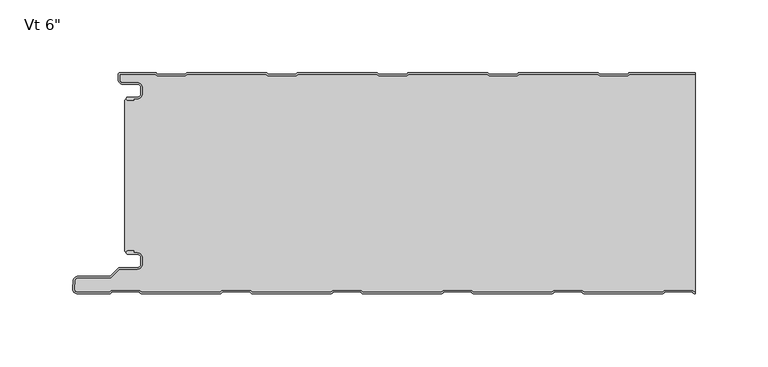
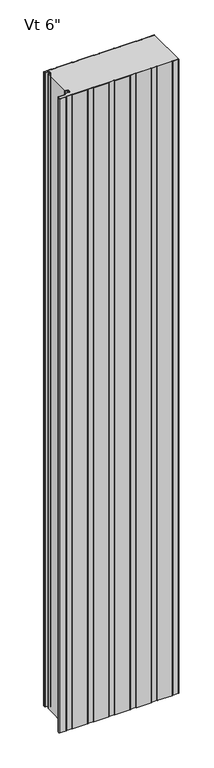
"""IFC4 building model written with IfcOpenShell, lengths in millimetres: plate geometry."""

from ifc_helpers import new_model, si_unit, point, frame, frame_2d, origin, origin_with_axes, place, context, project, spatial, polyline, circle_curve, trimmed, segment, composite_curve, outline, extrude, source, transform, mapped, element, save
from ifc_brep_helpers import plane_surface, cylinder_surface, revolved_surface, advanced_brep


def plate_28d0dd15(model_context):
    return source(origin(), model_context, "Body", "SolidModel", [
        advanced_brep(
        [(-194.5686912, -17.0015405, 2400.0), (-195.5686885, -18.0015437, 2400.0), (-194.5686912, -19.0015351, 2400.0), (-190.5684875, -19.0015351, 2400.0), (-190.5684876, -18.0015405, 2400.0), (-187.8762777, -18.0015405, 2400.0), (-184.5762821, -14.7015448, 2400.0), (-184.5762821, -10.3015536, 2400.0), (-187.8762776, -7.0015581, 2400.0), (-198.2962565, -7.0015581, 2400.0), (-200.0662507, -5.2315639, 2400.0), (-200.0662507, -1.0000163, 2400.0), (-175.5659741, -1.0000162, 2400.0), (-174.1803314, -2.2002553, 2400.0), (-154.8051651, -2.2002553, 2400.0), (-153.4195322, -1.0000245, 2400.0), (-99.3661168, -1.0000245, 2400.0), (-97.9804838, -2.2002552, 2400.0), (-78.6053175, -2.2002551, 2400.0), (-77.2196846, -1.0000244, 2400.0), (-23.1662692, -1.0000243, 2400.0), (-21.7806362, -2.200255, 2400.0), (-2.4054699, -2.200255, 2400.0), (-1.019837, -1.0000243, 2400.0), (53.0335784, -1.0000242, 2400.0), (54.4192114, -2.2002549, 2400.0), (73.7943777, -2.2002548, 2400.0), (75.1800106, -1.0000241, 2400.0), (129.233426, -1.000024, 2400.0), (130.619059, -2.2002547, 2400.0), (149.9942253, -2.2002547, 2400.0), (151.3798582, -1.000024, 2400.0), (196.5999996, -1.0000239, 2400.0), (196.5999996, -2.39e-05, 2400.0), (151.5290094, -2.4e-05, 2400.0), (150.6123925, -0.3418125, 2400.0), (149.6213448, -1.2002547, 2400.0), (130.9919394, -1.2002547, 2400.0), (130.0008917, -0.3418125, 2400.0), (129.0842749, -2.4e-05, 2400.0), (75.3291618, -2.41e-05, 2400.0), (74.4125449, -0.3418126, 2400.0), (73.4214972, -1.2002548, 2400.0), (54.7920918, -1.2002549, 2400.0), (53.8010441, -0.3418127, 2400.0), (52.8844273, -2.42e-05, 2400.0), (-0.8706858, -2.43e-05, 2400.0), (-1.7873027, -0.3418128, 2400.0), (-2.7783504, -1.200255, 2400.0), (-21.4077558, -1.200255, 2400.0), (-22.3988035, -0.3418128, 2400.0), (-23.3154203, -2.43e-05, 2400.0), (-77.0705334, -2.44e-05, 2400.0), (-77.9871503, -0.3418129, 2400.0), (-78.978198, -1.2002551, 2400.0), (-97.6076034, -1.2002552, 2400.0), (-98.5986511, -0.341813, 2400.0), (-99.5152679, -2.44e-05, 2400.0), (-153.270381, -2.45e-05, 2400.0), (-154.1869979, -0.3418131, 2400.0), (-155.1780456, -1.2002553, 2400.0), (-173.807451, -1.2002553, 2400.0), (-174.7984987, -0.3418131, 2400.0), (-175.7152069, -2.46e-05, 2400.0), (-199.6662545, -1.63e-05, 2400.0), (-201.0662507, -1.4000124, 2400.0), (-201.0662507, -5.2315639, 2400.0), (-198.2962565, -8.0015581, 2400.0), (-187.8762776, -8.0015581, 2400.0), (-185.5762821, -10.3015536, 2400.0), (-185.5762821, -14.7015448, 2400.0), (-187.8762777, -17.0015405, 2400.0), (-194.5686912, -17.0015405, 0.0), (-187.8762777, -17.0015405, 0.0), (-185.5762821, -14.7015448, 0.0), (-185.5762821, -10.3015536, 0.0), (-187.8762776, -8.0015581, 0.0), (-198.2962565, -8.0015581, 0.0), (-201.0662507, -5.2315639, 0.0), (-201.0662507, -1.4000124, 0.0), (-199.6662545, -1.63e-05, 0.0), (-175.7151155, -1.62e-05, 0.0), (-174.7984987, -0.3418131, 0.0), (-173.807451, -1.2002553, 0.0), (-155.1780456, -1.2002553, 0.0), (-154.1869979, -0.3418131, 0.0), (-153.270381, -2.45e-05, 0.0), (-99.5152679, -2.45e-05, 0.0), (-98.5986511, -0.341813, 0.0), (-97.6076034, -1.2002552, 0.0), (-78.978198, -1.2002551, 0.0), (-77.9871503, -0.3418129, 0.0), (-77.0705334, -2.44e-05, 0.0), (-23.3154203, -2.43e-05, 0.0), (-22.3988035, -0.3418128, 0.0), (-21.4077558, -1.200255, 0.0), (-2.7783504, -1.200255, 0.0), (-1.7873027, -0.3418128, 0.0), (-0.8706858, -2.43e-05, 0.0), (52.8844273, -2.42e-05, 0.0), (53.8010441, -0.3418127, 0.0), (54.7920918, -1.2002549, 0.0), (73.4214972, -1.2002548, 0.0), (74.4125449, -0.3418126, 0.0), (75.3291618, -2.41e-05, 0.0), (129.0842749, -2.4e-05, 0.0), (130.0008917, -0.3418125, 0.0), (130.9919394, -1.2002547, 0.0), (149.6213448, -1.2002547, 0.0), (150.6123925, -0.3418125, 0.0), (151.5290094, -2.4e-05, 0.0), (196.5999996, -2.39e-05, 0.0), (196.5999996, -1.0000239, 0.0), (151.3798582, -1.000024, 0.0), (149.9942253, -2.2002547, 0.0), (130.619059, -2.2002547, 0.0), (129.233426, -1.000024, 0.0), (75.1800106, -1.0000241, 0.0), (73.7943777, -2.2002548, 0.0), (54.4192114, -2.2002549, 0.0), (53.0335784, -1.0000242, 0.0), (-1.019837, -1.0000243, 0.0), (-2.4054699, -2.200255, 0.0), (-21.7806362, -2.200255, 0.0), (-23.1662692, -1.0000243, 0.0), (-77.2196846, -1.0000244, 0.0), (-78.6053175, -2.2002551, 0.0), (-97.9804838, -2.2002552, 0.0), (-99.3661168, -1.0000245, 0.0), (-153.4195322, -1.0000245, 0.0), (-154.8051651, -2.2002553, 0.0), (-174.1803314, -2.2002553, 0.0), (-175.5659741, -1.0000162, 0.0), (-200.0662507, -1.0000163, 0.0), (-200.0662507, -5.2315639, 0.0), (-198.2962565, -7.0015581, 0.0), (-187.8762776, -7.0015581, 0.0), (-184.5762821, -10.3015536, 0.0), (-184.5762821, -14.7015448, 0.0), (-187.8762777, -18.0015405, 0.0), (-190.5684876, -18.0015405, 0.0), (-190.5684875, -19.0015351, 0.0), (-194.5686912, -19.0015351, 0.0), (-195.5686884, -18.0015438, 0.0)],
        [
            (0, 1, circle_curve(frame((-194.5686912, -18.0015378, 2400.0), z_axis=(0.0, 0.0, 1.0), x_axis=(1.0, 1.7886562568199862e-09, 0.0)), 0.9999973)),
            (1, 2, circle_curve(frame((-194.5686912, -18.0015379, 2400.0), z_axis=(0.0, 0.0, 1.0), x_axis=(1.0, 1.7886562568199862e-09, 0.0)), 0.9999972)),
            (2, 3),
            (3, 4),
            (4, 5),
            (5, 6, circle_curve(frame((-187.8762778, -14.7015448, 2400.0), z_axis=(0.0, 0.0, 1.0), x_axis=(1.0, 1.7886562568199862e-09, 0.0)), 3.2999957)),
            (6, 7),
            (7, 8, circle_curve(frame((-187.8762776, -10.3015536, 2400.0), z_axis=(0.0, 0.0, 1.0), x_axis=(1.0, 1.7886562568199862e-09, 0.0)), 3.2999955)),
            (8, 9),
            (9, 10, circle_curve(frame((-198.2962565, -5.2315639, 2400.0), z_axis=(0.0, 0.0, -1.0), x_axis=(1.0, 1.7886562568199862e-09, 0.0)), 1.7699942)),
            (10, 11),
            (11, 12),
            (12, 13),
            (13, 14),
            (14, 15),
            (15, 16),
            (16, 17),
            (17, 18),
            (18, 19),
            (19, 20),
            (20, 21),
            (21, 22),
            (22, 23),
            (23, 24),
            (24, 25),
            (25, 26),
            (26, 27),
            (27, 28),
            (28, 29),
            (29, 30),
            (30, 31),
            (31, 32),
            (32, 33),
            (33, 34),
            (34, 35, circle_curve(frame((151.5290094, -1.4000212, 2400.0), z_axis=(0.0, 0.0, 1.0), x_axis=(1.0, 1.7886562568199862e-09, 0.0)), 1.3999972)),
            (35, 36),
            (36, 37),
            (37, 38),
            (38, 39, circle_curve(frame((129.0842749, -1.4000212, 2400.0), z_axis=(0.0, 0.0, 1.0), x_axis=(1.0, 1.7886562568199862e-09, 0.0)), 1.3999972)),
            (39, 40),
            (40, 41, circle_curve(frame((75.3291618, -1.4000213, 2400.0), z_axis=(0.0, 0.0, 1.0), x_axis=(1.0, 1.7886562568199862e-09, 0.0)), 1.3999972)),
            (41, 42),
            (42, 43),
            (43, 44),
            (44, 45, circle_curve(frame((52.8844273, -1.4000214, 2400.0), z_axis=(0.0, 0.0, 1.0), x_axis=(1.0, 1.7886562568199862e-09, 0.0)), 1.3999972)),
            (45, 46),
            (46, 47, circle_curve(frame((-0.8706858, -1.4000215, 2400.0), z_axis=(0.0, 0.0, 1.0), x_axis=(1.0, 1.7886562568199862e-09, 0.0)), 1.3999972)),
            (47, 48),
            (48, 49),
            (49, 50),
            (50, 51, circle_curve(frame((-23.3154203, -1.4000215, 2400.0), z_axis=(0.0, 0.0, 1.0), x_axis=(1.0, 1.7886562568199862e-09, 0.0)), 1.3999972)),
            (51, 52),
            (52, 53, circle_curve(frame((-77.0705334, -1.4000216, 2400.0), z_axis=(0.0, 0.0, 1.0), x_axis=(1.0, 1.7886562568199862e-09, 0.0)), 1.3999972)),
            (53, 54),
            (54, 55),
            (55, 56),
            (56, 57, circle_curve(frame((-99.5152679, -1.4000216, 2400.0), z_axis=(0.0, 0.0, 1.0), x_axis=(1.0, 1.7886562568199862e-09, 0.0)), 1.3999972)),
            (57, 58),
            (58, 59, circle_curve(frame((-153.270381, -1.4000217, 2400.0), z_axis=(0.0, 0.0, 1.0), x_axis=(1.0, 1.7886562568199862e-09, 0.0)), 1.3999972)),
            (59, 60),
            (60, 61),
            (61, 62),
            (62, 63, circle_curve(frame((-175.7151155, -1.4000218, 2400.0), z_axis=(0.0, 0.0, 1.0), x_axis=(1.0, 1.7886562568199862e-09, 0.0)), 1.3999972)),
            (63, 64),
            (64, 65, circle_curve(frame((-199.6662545, -1.4000124, 2400.0), z_axis=(0.0, 0.0, 1.0), x_axis=(1.0, 1.7886562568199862e-09, 0.0)), 1.3999962)),
            (65, 66),
            (66, 67, circle_curve(frame((-198.2962565, -5.2315639, 2400.0), z_axis=(0.0, 0.0, 1.0), x_axis=(1.0, 1.7886562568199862e-09, 0.0)), 2.7699942)),
            (67, 68),
            (68, 69, circle_curve(frame((-187.8762776, -10.3015536, 2400.0), z_axis=(0.0, 0.0, -1.0), x_axis=(1.0, 1.7886562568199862e-09, 0.0)), 2.2999955)),
            (69, 70),
            (70, 71, circle_curve(frame((-187.8762778, -14.7015448, 2400.0), z_axis=(0.0, 0.0, -1.0), x_axis=(1.0, 1.7886562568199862e-09, 0.0)), 2.2999957)),
            (71, 0),
            (72, 73),
            (73, 74, circle_curve(frame((-187.8762778, -14.7015448, 0.0), z_axis=(0.0, 0.0, 1.0), x_axis=(1.0, 1.7886562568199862e-09, 0.0)), 2.2999957)),
            (74, 75),
            (75, 76, circle_curve(frame((-187.8762776, -10.3015536, 0.0), z_axis=(0.0, 0.0, 1.0), x_axis=(1.0, 1.7886562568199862e-09, 0.0)), 2.2999955)),
            (76, 77),
            (77, 78, circle_curve(frame((-198.2962565, -5.2315639, 0.0), z_axis=(0.0, 0.0, -1.0), x_axis=(1.0, 1.7886562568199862e-09, 0.0)), 2.7699942)),
            (78, 79),
            (79, 80, circle_curve(frame((-199.6662545, -1.4000124, 0.0), z_axis=(0.0, 0.0, -1.0), x_axis=(1.0, 1.7886562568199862e-09, 0.0)), 1.3999962)),
            (80, 81),
            (81, 82, circle_curve(frame((-175.7151155, -1.4000218, 0.0), z_axis=(0.0, 0.0, -1.0), x_axis=(1.0, 1.7886562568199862e-09, 0.0)), 1.3999972)),
            (82, 83),
            (83, 84),
            (84, 85),
            (85, 86, circle_curve(frame((-153.270381, -1.4000217, 0.0), z_axis=(0.0, 0.0, -1.0), x_axis=(1.0, 1.7886562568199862e-09, 0.0)), 1.3999972)),
            (86, 87),
            (87, 88, circle_curve(frame((-99.5152679, -1.4000216, 0.0), z_axis=(0.0, 0.0, -1.0), x_axis=(1.0, 1.7886562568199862e-09, 0.0)), 1.3999972)),
            (88, 89),
            (89, 90),
            (90, 91),
            (91, 92, circle_curve(frame((-77.0705334, -1.4000216, 0.0), z_axis=(0.0, 0.0, -1.0), x_axis=(1.0, 1.7886562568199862e-09, 0.0)), 1.3999972)),
            (92, 93),
            (93, 94, circle_curve(frame((-23.3154203, -1.4000215, 0.0), z_axis=(0.0, 0.0, -1.0), x_axis=(1.0, 1.7886562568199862e-09, 0.0)), 1.3999972)),
            (94, 95),
            (95, 96),
            (96, 97),
            (97, 98, circle_curve(frame((-0.8706858, -1.4000215, 0.0), z_axis=(0.0, 0.0, -1.0), x_axis=(1.0, 1.7886562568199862e-09, 0.0)), 1.3999972)),
            (98, 99),
            (99, 100, circle_curve(frame((52.8844273, -1.4000214, 0.0), z_axis=(0.0, 0.0, -1.0), x_axis=(1.0, 1.7886562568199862e-09, 0.0)), 1.3999972)),
            (100, 101),
            (101, 102),
            (102, 103),
            (103, 104, circle_curve(frame((75.3291618, -1.4000213, 0.0), z_axis=(0.0, 0.0, -1.0), x_axis=(1.0, 1.7886562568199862e-09, 0.0)), 1.3999972)),
            (104, 105),
            (105, 106, circle_curve(frame((129.0842749, -1.4000212, 0.0), z_axis=(0.0, 0.0, -1.0), x_axis=(1.0, 1.7886562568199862e-09, 0.0)), 1.3999972)),
            (106, 107),
            (107, 108),
            (108, 109),
            (109, 110, circle_curve(frame((151.5290094, -1.4000212, 0.0), z_axis=(0.0, 0.0, -1.0), x_axis=(1.0, 1.7886562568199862e-09, 0.0)), 1.3999972)),
            (110, 111),
            (111, 112),
            (112, 113),
            (113, 114),
            (114, 115),
            (115, 116),
            (116, 117),
            (117, 118),
            (118, 119),
            (119, 120),
            (120, 121),
            (121, 122),
            (122, 123),
            (123, 124),
            (124, 125),
            (125, 126),
            (126, 127),
            (127, 128),
            (128, 129),
            (129, 130),
            (130, 131),
            (131, 132),
            (132, 133),
            (133, 134),
            (134, 135, circle_curve(frame((-198.2962565, -5.2315639, 0.0), z_axis=(0.0, 0.0, 1.0), x_axis=(1.0, 1.7886562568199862e-09, 0.0)), 1.7699942)),
            (135, 136),
            (136, 137, circle_curve(frame((-187.8762776, -10.3015536, 0.0), z_axis=(0.0, 0.0, -1.0), x_axis=(1.0, 1.7886562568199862e-09, 0.0)), 3.2999955)),
            (137, 138),
            (138, 139, circle_curve(frame((-187.8762778, -14.7015448, 0.0), z_axis=(0.0, 0.0, -1.0), x_axis=(1.0, 1.7886562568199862e-09, 0.0)), 3.2999957)),
            (139, 140),
            (140, 141),
            (141, 142),
            (142, 143, circle_curve(frame((-194.5686912, -18.0015379, 0.0), z_axis=(0.0, 0.0, -1.0), x_axis=(1.0, 1.7886562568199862e-09, 0.0)), 0.9999972)),
            (143, 72, circle_curve(frame((-194.5686912, -18.0015378, 0.0), z_axis=(0.0, 0.0, -1.0), x_axis=(1.0, 1.7886562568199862e-09, 0.0)), 0.9999973)),
            (32, 112),
            (111, 33),
            (71, 73),
            (72, 0),
            (70, 74),
            (69, 75),
            (68, 76),
            (67, 77),
            (66, 78),
            (65, 79),
            (64, 80),
            (63, 81),
            (62, 82),
            (61, 83),
            (60, 84),
            (59, 85),
            (58, 86),
            (57, 87),
            (56, 88),
            (55, 89),
            (54, 90),
            (53, 91),
            (52, 92),
            (51, 93),
            (50, 94),
            (49, 95),
            (48, 96),
            (47, 97),
            (46, 98),
            (45, 99),
            (44, 100),
            (43, 101),
            (42, 102),
            (41, 103),
            (40, 104),
            (39, 105),
            (38, 106),
            (37, 107),
            (36, 108),
            (35, 109),
            (34, 110),
            (31, 113),
            (30, 114),
            (29, 115),
            (28, 116),
            (27, 117),
            (26, 118),
            (25, 119),
            (24, 120),
            (23, 121),
            (22, 122),
            (21, 123),
            (20, 124),
            (19, 125),
            (18, 126),
            (17, 127),
            (16, 128),
            (15, 129),
            (14, 130),
            (13, 131),
            (12, 132),
            (11, 133),
            (10, 134),
            (9, 135),
            (8, 136),
            (7, 137),
            (6, 138),
            (5, 139),
            (4, 140),
            (3, 141),
            (2, 142),
            (1, 143),
        ],
        [
            plane_surface(frame((336.7999999, -2.37e-05, 2400.0), z_axis=(0.0, 0.0, 1.0), x_axis=(-1.7886562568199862e-09, 1.0, 0.0))),
            plane_surface(frame((336.7999999, -2.37e-05, 0.0), z_axis=(0.0, 0.0, -1.0), x_axis=(-1.7886562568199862e-09, 1.0, 0.0))),
            plane_surface(frame((196.5999999, -162.4000239, 2400.0), z_axis=(1.0, 1.7886562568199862e-09, 0.0), x_axis=(0.0, 0.0, -1.0))),
            plane_surface(frame((-194.5686912, -17.0015405, 2400.0), z_axis=(-1.7886562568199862e-09, 1.0, 0.0), x_axis=(0.0, 0.0, -1.0))),
            revolved_surface(polyline([(-185.5762821, -14.701544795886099, 0.0), (-185.5762821, -14.701544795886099, 2400.0)]), (-187.8762778, -14.7015448, 2400.0), (0.0, 0.0, -1.0)),
            plane_surface(frame((-185.5762821, -14.7015448, 2400.0), z_axis=(-1.0, -1.7886562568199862e-09, 0.0), x_axis=(0.0, 0.0, -1.0))),
            revolved_surface(polyline([(-185.57628210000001, -10.301553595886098, 0.0), (-185.57628210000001, -10.301553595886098, 2400.0)]), (-187.8762776, -10.3015536, 2400.0), (0.0, 0.0, -1.0)),
            plane_surface(frame((-187.8762776, -8.0015581, 2400.0), z_axis=(1.7886562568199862e-09, -1.0, 0.0), x_axis=(0.0, 0.0, -1.0))),
            cylinder_surface(frame((-198.2962565, -5.2315639, 2400.0), z_axis=(0.0, 0.0, 1.0), x_axis=(1.0, 1.7886562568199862e-09, 0.0)), 2.7699942),
            plane_surface(frame((-201.0662507, -5.2315639, 2400.0), z_axis=(-1.0, -1.7886562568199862e-09, 0.0), x_axis=(0.0, 0.0, -1.0))),
            cylinder_surface(frame((-199.6662545, -1.4000124, 2400.0), z_axis=(0.0, 0.0, 1.0), x_axis=(1.0, 1.7886562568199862e-09, 0.0)), 1.3999962),
            plane_surface(frame((-199.6662545, -1.63e-05, 2400.0), z_axis=(-1.7886562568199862e-09, 1.0, 0.0), x_axis=(0.0, 0.0, -1.0))),
            cylinder_surface(frame((-175.7151155, -1.4000218, 2400.0), z_axis=(0.0, 0.0, 1.0), x_axis=(1.0, 1.7886562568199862e-09, 0.0)), 1.3999972),
            plane_surface(frame((-174.7984987, -0.3418131, 2400.0), z_axis=(0.6547276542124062, 0.7558648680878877, 0.0), x_axis=(0.0, 0.0, -1.0))),
            plane_surface(frame((-164.4927483, -1.2002553, 2400.0), z_axis=(-1.7886562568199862e-09, 1.0, 0.0), x_axis=(0.0, 0.0, -1.0))),
            plane_surface(frame((-155.1780456, -1.2002553, 2400.0), z_axis=(-0.654727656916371, 0.7558648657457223, 0.0), x_axis=(0.0, 0.0, -1.0))),
            cylinder_surface(frame((-153.270381, -1.4000217, 2400.0), z_axis=(0.0, 0.0, 1.0), x_axis=(1.0, 1.7886562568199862e-09, 0.0)), 1.3999972),
            plane_surface(frame((-153.270381, -2.45e-05, 2400.0), z_axis=(-1.7886512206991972e-09, 1.0, 0.0), x_axis=(0.0, 0.0, -1.0))),
            cylinder_surface(frame((-99.5152679, -1.4000216, 2400.0), z_axis=(0.0, 0.0, 1.0), x_axis=(1.0, 1.7886562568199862e-09, 0.0)), 1.3999972),
            plane_surface(frame((-98.5986511, -0.341813, 2400.0), z_axis=(0.6547276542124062, 0.7558648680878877, 0.0), x_axis=(0.0, 0.0, -1.0))),
            plane_surface(frame((-88.2929007, -1.2002551, 2400.0), z_axis=(-1.7886562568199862e-09, 1.0, 0.0), x_axis=(0.0, 0.0, -1.0))),
            plane_surface(frame((-78.978198, -1.2002551, 2400.0), z_axis=(-0.654727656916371, 0.7558648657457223, 0.0), x_axis=(0.0, 0.0, -1.0))),
            cylinder_surface(frame((-77.0705334, -1.4000216, 2400.0), z_axis=(0.0, 0.0, 1.0), x_axis=(1.0, 1.7886562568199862e-09, 0.0)), 1.3999972),
            plane_surface(frame((-77.0705334, -2.44e-05, 2400.0), z_axis=(-1.7886512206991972e-09, 1.0, 0.0), x_axis=(0.0, 0.0, -1.0))),
            cylinder_surface(frame((-23.3154203, -1.4000215, 2400.0), z_axis=(0.0, 0.0, 1.0), x_axis=(1.0, 1.7886562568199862e-09, 0.0)), 1.3999972),
            plane_surface(frame((-22.3988035, -0.3418128, 2400.0), z_axis=(0.6547276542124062, 0.7558648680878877, 0.0), x_axis=(0.0, 0.0, -1.0))),
            plane_surface(frame((-12.0930531, -1.200255, 2400.0), z_axis=(-1.7886562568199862e-09, 1.0, 0.0), x_axis=(0.0, 0.0, -1.0))),
            plane_surface(frame((-2.7783504, -1.200255, 2400.0), z_axis=(-0.654727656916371, 0.7558648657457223, 0.0), x_axis=(0.0, 0.0, -1.0))),
            cylinder_surface(frame((-0.8706858, -1.4000215, 2400.0), z_axis=(0.0, 0.0, 1.0), x_axis=(1.0, 1.7886562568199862e-09, 0.0)), 1.3999972),
            plane_surface(frame((-0.8706858, -2.43e-05, 2400.0), z_axis=(-1.7886512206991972e-09, 1.0, 0.0), x_axis=(0.0, 0.0, -1.0))),
            cylinder_surface(frame((52.8844273, -1.4000214, 2400.0), z_axis=(0.0, 0.0, 1.0), x_axis=(1.0, 1.7886562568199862e-09, 0.0)), 1.3999972),
            plane_surface(frame((53.8010441, -0.3418127, 2400.0), z_axis=(0.6547276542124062, 0.7558648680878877, 0.0), x_axis=(0.0, 0.0, -1.0))),
            plane_surface(frame((64.1067945, -1.2002549, 2400.0), z_axis=(-1.7886562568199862e-09, 1.0, 0.0), x_axis=(0.0, 0.0, -1.0))),
            plane_surface(frame((73.4214972, -1.2002548, 2400.0), z_axis=(-0.654727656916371, 0.7558648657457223, 0.0), x_axis=(0.0, 0.0, -1.0))),
            cylinder_surface(frame((75.3291618, -1.4000213, 2400.0), z_axis=(0.0, 0.0, 1.0), x_axis=(1.0, 1.7886562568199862e-09, 0.0)), 1.3999972),
            plane_surface(frame((75.3291618, -2.41e-05, 2400.0), z_axis=(-1.7886512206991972e-09, 1.0, 0.0), x_axis=(0.0, 0.0, -1.0))),
            cylinder_surface(frame((129.0842749, -1.4000212, 2400.0), z_axis=(0.0, 0.0, 1.0), x_axis=(1.0, 1.7886562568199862e-09, 0.0)), 1.3999972),
            plane_surface(frame((130.0008917, -0.3418125, 2400.0), z_axis=(0.6547276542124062, 0.7558648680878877, 0.0), x_axis=(0.0, 0.0, -1.0))),
            plane_surface(frame((140.3066421, -1.2002547, 2400.0), z_axis=(-1.7886562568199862e-09, 1.0, 0.0), x_axis=(0.0, 0.0, -1.0))),
            plane_surface(frame((149.6213448, -1.2002547, 2400.0), z_axis=(-0.654727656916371, 0.7558648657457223, 0.0), x_axis=(0.0, 0.0, -1.0))),
            cylinder_surface(frame((151.5290094, -1.4000212, 2400.0), z_axis=(0.0, 0.0, 1.0), x_axis=(1.0, 1.7886562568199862e-09, 0.0)), 1.3999972),
            plane_surface(frame((151.5290094, -2.4e-05, 2400.0), z_axis=(-1.7886512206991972e-09, 1.0, 0.0), x_axis=(0.0, 0.0, -1.0))),
            plane_surface(frame((205.4332736, -1.0000239, 2400.0), z_axis=(1.7886512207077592e-09, -1.0, 0.0), x_axis=(0.0, 0.0, -1.0))),
            plane_surface(frame((151.3798582, -1.000024, 2400.0), z_axis=(0.654727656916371, -0.7558648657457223, 0.0), x_axis=(0.0, 0.0, -1.0))),
            plane_surface(frame((149.9942253, -2.2002547, 2400.0), z_axis=(1.7886562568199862e-09, -1.0, 0.0), x_axis=(0.0, 0.0, -1.0))),
            plane_surface(frame((130.619059, -2.2002547, 2400.0), z_axis=(-0.6547276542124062, -0.7558648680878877, 0.0), x_axis=(0.0, 0.0, -1.0))),
            plane_surface(frame((129.233426, -1.000024, 2400.0), z_axis=(1.7886512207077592e-09, -1.0, 0.0), x_axis=(0.0, 0.0, -1.0))),
            plane_surface(frame((75.1800106, -1.0000241, 2400.0), z_axis=(0.654727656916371, -0.7558648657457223, 0.0), x_axis=(0.0, 0.0, -1.0))),
            plane_surface(frame((73.7943777, -2.2002548, 2400.0), z_axis=(1.7886562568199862e-09, -1.0, 0.0), x_axis=(0.0, 0.0, -1.0))),
            plane_surface(frame((54.4192114, -2.2002549, 2400.0), z_axis=(-0.6547276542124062, -0.7558648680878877, 0.0), x_axis=(0.0, 0.0, -1.0))),
            plane_surface(frame((53.0335784, -1.0000242, 2400.0), z_axis=(1.7886512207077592e-09, -1.0, 0.0), x_axis=(0.0, 0.0, -1.0))),
            plane_surface(frame((-1.019837, -1.0000243, 2400.0), z_axis=(0.654727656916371, -0.7558648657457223, 0.0), x_axis=(0.0, 0.0, -1.0))),
            plane_surface(frame((-2.4054699, -2.200255, 2400.0), z_axis=(1.7886562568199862e-09, -1.0, 0.0), x_axis=(0.0, 0.0, -1.0))),
            plane_surface(frame((-21.7806362, -2.200255, 2400.0), z_axis=(-0.6547276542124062, -0.7558648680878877, 0.0), x_axis=(0.0, 0.0, -1.0))),
            plane_surface(frame((-23.1662692, -1.0000243, 2400.0), z_axis=(1.7886512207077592e-09, -1.0, 0.0), x_axis=(0.0, 0.0, -1.0))),
            plane_surface(frame((-77.2196846, -1.0000244, 2400.0), z_axis=(0.654727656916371, -0.7558648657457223, 0.0), x_axis=(0.0, 0.0, -1.0))),
            plane_surface(frame((-78.6053175, -2.2002551, 2400.0), z_axis=(1.7886562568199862e-09, -1.0, 0.0), x_axis=(0.0, 0.0, -1.0))),
            plane_surface(frame((-97.9804838, -2.2002552, 2400.0), z_axis=(-0.6547276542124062, -0.7558648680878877, 0.0), x_axis=(0.0, 0.0, -1.0))),
            plane_surface(frame((-99.3661168, -1.0000245, 2400.0), z_axis=(1.7886512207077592e-09, -1.0, 0.0), x_axis=(0.0, 0.0, -1.0))),
            plane_surface(frame((-153.4195322, -1.0000245, 2400.0), z_axis=(0.654727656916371, -0.7558648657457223, 0.0), x_axis=(0.0, 0.0, -1.0))),
            plane_surface(frame((-154.8051651, -2.2002553, 2400.0), z_axis=(1.7886562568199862e-09, -1.0, 0.0), x_axis=(0.0, 0.0, -1.0))),
            plane_surface(frame((-174.1803314, -2.2002553, 2400.0), z_axis=(-0.6547276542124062, -0.7558648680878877, 0.0), x_axis=(0.0, 0.0, -1.0))),
            plane_surface(frame((-175.5659741, -1.0000162, 2400.0), z_axis=(1.7886562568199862e-09, -1.0, 0.0), x_axis=(0.0, 0.0, -1.0))),
            plane_surface(frame((-200.0662507, -1.0000163, 2400.0), z_axis=(1.0, 1.7886562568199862e-09, 0.0), x_axis=(0.0, 0.0, -1.0))),
            revolved_surface(polyline([(-196.52626229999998, -5.231563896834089, 0.0), (-196.52626229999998, -5.231563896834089, 2400.0)]), (-198.2962565, -5.2315639, 2400.0), (0.0, 0.0, -1.0)),
            plane_surface(frame((-198.2962565, -7.0015581, 2400.0), z_axis=(-1.7886562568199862e-09, 1.0, 0.0), x_axis=(0.0, 0.0, -1.0))),
            cylinder_surface(frame((-187.8762776, -10.3015536, 2400.0), z_axis=(0.0, 0.0, 1.0), x_axis=(1.0, 1.7886562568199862e-09, 0.0)), 3.2999955),
            plane_surface(frame((-184.5762821, -10.3015536, 2400.0), z_axis=(1.0, 1.7886562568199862e-09, 0.0), x_axis=(0.0, 0.0, -1.0))),
            cylinder_surface(frame((-187.8762778, -14.7015448, 2400.0), z_axis=(0.0, 0.0, 1.0), x_axis=(1.0, 1.7886562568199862e-09, 0.0)), 3.2999957),
            plane_surface(frame((-187.8762777, -18.0015405, 2400.0), z_axis=(1.7886562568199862e-09, -1.0, 0.0), x_axis=(0.0, 0.0, -1.0))),
            plane_surface(frame((-190.5684876, -18.0015405, 2400.0), z_axis=(1.0, 1.7886562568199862e-09, 0.0), x_axis=(0.0, 0.0, -1.0))),
            plane_surface(frame((-190.5684875, -19.0015351, 2400.0), z_axis=(1.7886562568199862e-09, -1.0, 0.0), x_axis=(0.0, 0.0, -1.0))),
            cylinder_surface(frame((-194.5686912, -18.0015379, 2400.0), z_axis=(0.0, 0.0, 1.0), x_axis=(1.0, 1.7886562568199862e-09, 0.0)), 0.9999972),
            cylinder_surface(frame((-194.5686912, -18.0015378, 2400.0), z_axis=(0.0, 0.0, 1.0), x_axis=(1.0, 1.7886562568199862e-09, 0.0)), 0.9999973),
        ],
        [
            (0, [[1, 2, 3, 4, 5, 6, 7, 8, 9, 10, 11, 12, 13, 14, 15, 16, 17, 18, 19, 20, 21, 22, 23, 24, 25, 26, 27, 28, 29, 30, 31, 32, 33, 34, 35, 36, 37, 38, 39, 40, 41, 42, 43, 44, 45, 46, 47, 48, 49, 50, 51, 52, 53, 54, 55, 56, 57, 58, 59, 60, 61, 62, 63, 64, 65, 66, 67, 68, 69, 70, 71, 72]]),
            (1, [[73, 74, 75, 76, 77, 78, 79, 80, 81, 82, 83, 84, 85, 86, 87, 88, 89, 90, 91, 92, 93, 94, 95, 96, 97, 98, 99, 100, 101, 102, 103, 104, 105, 106, 107, 108, 109, 110, 111, 112, 113, 114, 115, 116, 117, 118, 119, 120, 121, 122, 123, 124, 125, 126, 127, 128, 129, 130, 131, 132, 133, 134, 135, 136, 137, 138, 139, 140, 141, 142, 143, 144]]),
            (2, [[145, -112, 146, -33]]),
            (3, [[147, -73, 148, -72]]),
            (4, [[149, -74, -147, -71]]),
            (5, [[150, -75, -149, -70]]),
            (6, [[151, -76, -150, -69]]),
            (7, [[152, -77, -151, -68]]),
            (8, [[153, -78, -152, -67]]),
            (9, [[154, -79, -153, -66]]),
            (10, [[155, -80, -154, -65]]),
            (11, [[156, -81, -155, -64]]),
            (12, [[157, -82, -156, -63]]),
            (13, [[158, -83, -157, -62]]),
            (14, [[159, -84, -158, -61]]),
            (15, [[160, -85, -159, -60]]),
            (16, [[161, -86, -160, -59]]),
            (17, [[162, -87, -161, -58]]),
            (18, [[163, -88, -162, -57]]),
            (19, [[164, -89, -163, -56]]),
            (20, [[165, -90, -164, -55]]),
            (21, [[166, -91, -165, -54]]),
            (22, [[167, -92, -166, -53]]),
            (23, [[168, -93, -167, -52]]),
            (24, [[169, -94, -168, -51]]),
            (25, [[170, -95, -169, -50]]),
            (26, [[171, -96, -170, -49]]),
            (27, [[172, -97, -171, -48]]),
            (28, [[173, -98, -172, -47]]),
            (29, [[174, -99, -173, -46]]),
            (30, [[175, -100, -174, -45]]),
            (31, [[176, -101, -175, -44]]),
            (32, [[177, -102, -176, -43]]),
            (33, [[178, -103, -177, -42]]),
            (34, [[179, -104, -178, -41]]),
            (35, [[180, -105, -179, -40]]),
            (36, [[181, -106, -180, -39]]),
            (37, [[182, -107, -181, -38]]),
            (38, [[183, -108, -182, -37]]),
            (39, [[184, -109, -183, -36]]),
            (40, [[185, -110, -184, -35]]),
            (41, [[-34, -146, -111, -185]]),
            (42, [[-113, -145, -32, 186]]),
            (43, [[187, -114, -186, -31]]),
            (44, [[188, -115, -187, -30]]),
            (45, [[189, -116, -188, -29]]),
            (46, [[190, -117, -189, -28]]),
            (47, [[191, -118, -190, -27]]),
            (48, [[192, -119, -191, -26]]),
            (49, [[193, -120, -192, -25]]),
            (50, [[194, -121, -193, -24]]),
            (51, [[195, -122, -194, -23]]),
            (52, [[196, -123, -195, -22]]),
            (53, [[197, -124, -196, -21]]),
            (54, [[198, -125, -197, -20]]),
            (55, [[199, -126, -198, -19]]),
            (56, [[200, -127, -199, -18]]),
            (57, [[201, -128, -200, -17]]),
            (58, [[202, -129, -201, -16]]),
            (59, [[203, -130, -202, -15]]),
            (60, [[204, -131, -203, -14]]),
            (61, [[205, -132, -204, -13]]),
            (62, [[206, -133, -205, -12]]),
            (63, [[207, -134, -206, -11]]),
            (64, [[208, -135, -207, -10]]),
            (65, [[209, -136, -208, -9]]),
            (66, [[210, -137, -209, -8]]),
            (67, [[211, -138, -210, -7]]),
            (68, [[212, -139, -211, -6]]),
            (69, [[213, -140, -212, -5]]),
            (70, [[214, -141, -213, -4]]),
            (71, [[215, -142, -214, -3]]),
            (72, [[216, -143, -215, -2]]),
            (73, [[-148, -144, -216, -1]]),
        ],
    ),
        extrude(outline(composite_curve([segment(polyline([(-207.2415932, -152.4006641), (-229.0521174, -152.4006641)]), True, "CONTINUOUS"), segment(trimmed(circle_curve(frame_2d((-229.0521174, -148.8304248)), 3.5702393), [point((-229.0521174, -152.4006641))], [point((-232.6087618, -148.5191544))], False, "CARTESIAN"), True, "CONTINUOUS"), segment(polyline([(-232.6087618, -148.5191544), (-232.1690673, -143.4951078)]), True, "CONTINUOUS"), segment(trimmed(circle_curve(frame_2d((-228.519839, -144.1059089)), 3.6999926), [point((-232.1690673, -143.4951078))], [point((-228.519839, -140.4059163))], False, "CARTESIAN"), True, "CONTINUOUS"), segment(polyline([(-228.519839, -140.4059163), (-207.3773995, -140.4059163)]), True, "CONTINUOUS"), segment(trimmed(circle_curve(frame_2d((-207.3773995, -139.1059189)), 1.2999974), [point((-207.3773995, -140.4059163))], [point((-206.4581625, -140.0251558))], True, "CARTESIAN"), True, "CONTINUOUS"), segment(polyline([(-206.4581625, -140.0251558), (-201.6297451, -135.1967384)]), True, "CONTINUOUS"), segment(trimmed(circle_curve(frame_2d((-199.7205606, -137.1059229)), 2.6999946), [point((-201.6297451, -135.1967384))], [point((-199.7205606, -134.4059283))], False, "CARTESIAN"), True, "CONTINUOUS"), segment(polyline([(-199.7205606, -134.4059283), (-187.9096715, -134.4059282)]), True, "CONTINUOUS"), segment(trimmed(circle_curve(frame_2d((-187.9096715, -132.0559329)), 2.3499953), [point((-187.9096715, -134.4059282))], [point((-185.5596762, -132.0559329))], True, "CARTESIAN"), True, "CONTINUOUS"), segment(polyline([(-185.5596762, -132.0559329), (-185.5596762, -127.6559417)]), True, "CONTINUOUS"), segment(trimmed(circle_curve(frame_2d((-187.9096715, -127.6559417)), 2.3499953), [point((-185.5596762, -127.6559417))], [point((-187.9096715, -125.3059464))], True, "CARTESIAN"), True, "CONTINUOUS"), segment(polyline([(-187.9096715, -125.3059464), (-194.4289777, -125.3059464)]), True, "CONTINUOUS"), segment(trimmed(circle_curve(frame_2d((-194.3686906, -124.1074642)), 1.1999976), [point((-194.4289777, -125.3059464))], [point((-195.5683, -124.0769423))], False, "CARTESIAN"), True, "CONTINUOUS"), segment(trimmed(circle_curve(frame_2d((-194.3686906, -124.1074642)), 1.1999976), [point((-195.5683, -124.0769423))], [point((-194.367176, -122.9074676))], False, "CARTESIAN"), True, "CONTINUOUS"), segment(polyline([(-194.367176, -122.9074676), (-190.6087826, -122.9074675), (-190.6087826, -124.3059464), (-187.9096715, -124.3059464)]), True, "CONTINUOUS"), segment(trimmed(circle_curve(frame_2d((-187.9096715, -127.6559417)), 3.3499953), [point((-187.9096715, -124.3059464))], [point((-184.5596762, -127.6559417))], False, "CARTESIAN"), True, "CONTINUOUS"), segment(polyline([(-184.5596762, -127.6559417), (-184.5596762, -132.0559329)]), True, "CONTINUOUS"), segment(trimmed(circle_curve(frame_2d((-187.9096715, -132.0559329)), 3.3499953), [point((-184.5596762, -132.0559329))], [point((-187.9096715, -135.4059282))], False, "CARTESIAN"), True, "CONTINUOUS"), segment(polyline([(-187.9096715, -135.4059282), (-199.7205606, -135.4059283)]), True, "CONTINUOUS"), segment(trimmed(circle_curve(frame_2d((-199.7205606, -137.1059229)), 1.6999946), [point((-199.7205606, -135.4059283))], [point((-200.9226383, -135.9038452))], True, "CARTESIAN"), True, "CONTINUOUS"), segment(polyline([(-200.9226383, -135.9038452), (-206.4247094, -141.4059163), (-228.519839, -141.4059163)]), True, "CONTINUOUS"), segment(trimmed(circle_curve(frame_2d((-228.519839, -144.1059089)), 2.6999926), [point((-228.519839, -141.4059163))], [point((-231.1765707, -143.6245183))], True, "CARTESIAN"), True, "CONTINUOUS"), segment(polyline([(-231.1765707, -143.6245183), (-231.6125697, -148.6063392)]), True, "CONTINUOUS"), segment(trimmed(circle_curve(frame_2d((-229.0521174, -148.8304248)), 2.5702393), [point((-231.6125697, -148.6063392))], [point((-229.0521174, -151.4006641))], True, "CARTESIAN"), True, "CONTINUOUS"), segment(polyline([(-229.0521174, -151.4006641), (-207.079096, -151.4006641), (-205.8791275, -150.2006955), (-186.1597149, -150.2006955), (-184.9594842, -151.4009262), (-130.8793525, -151.4009261), (-129.6791218, -150.2006954), (-109.9597093, -150.2006954), (-108.7594785, -151.4009261), (-54.6793468, -151.400926), (-53.4791161, -150.2006953), (-33.7597036, -150.2006952), (-32.5594729, -151.4009259), (21.5206589, -151.4009258), (22.7208896, -150.2006951), (42.4403021, -150.2006951), (43.6405328, -151.4009258), (97.7206646, -151.4009257), (98.9208953, -150.200695), (118.6403078, -150.200695), (119.8405385, -151.4009257), (173.9206703, -151.4009256), (175.120901, -150.2006949), (194.8403135, -150.2006948), (196.0405442, -151.4009255), (196.5999999, -151.4009255), (196.5999999, -152.4009255), (196.2099792, -152.4009255)]), True, "CONTINUOUS"), segment(trimmed(circle_curve(frame_2d((196.2023259, -151.0009492)), 1.3999972), [point((196.2099792, -152.4009255))], [point((195.1582751, -151.9336604))], False, "CARTESIAN"), True, "CONTINUOUS"), segment(polyline([(195.1582751, -151.9336604), (194.4253095, -151.2006948), (175.5346403, -151.2006949), (174.8016956, -151.9336395)]), True, "CONTINUOUS"), segment(trimmed(circle_curve(frame_2d((173.7576448, -151.0009284)), 1.3999972), [point((174.8016956, -151.9336395))], [point((173.7576448, -152.4009256))], False, "CARTESIAN"), True, "CONTINUOUS"), segment(polyline([(173.7576448, -152.4009256), (120.0101316, -152.4009257)]), True, "CONTINUOUS"), segment(trimmed(circle_curve(frame_2d((120.0024783, -151.0009494)), 1.3999972), [point((120.0101316, -152.4009257))], [point((118.9584275, -151.9336605))], False, "CARTESIAN"), True, "CONTINUOUS"), segment(polyline([(118.9584275, -151.9336605), (118.2254619, -151.200695), (99.3347927, -151.200695), (98.601848, -151.9336397)]), True, "CONTINUOUS"), segment(trimmed(circle_curve(frame_2d((97.5577972, -151.0009285)), 1.3999972), [point((98.601848, -151.9336397))], [point((97.5577972, -152.4009257))], False, "CARTESIAN"), True, "CONTINUOUS"), segment(polyline([(97.5577972, -152.4009257), (43.810284, -152.4009258)]), True, "CONTINUOUS"), segment(trimmed(circle_curve(frame_2d((43.8026307, -151.0009495)), 1.3999972), [point((43.810284, -152.4009258))], [point((42.7585799, -151.9336607))], False, "CARTESIAN"), True, "CONTINUOUS"), segment(polyline([(42.7585799, -151.9336607), (42.0256143, -151.2006951), (23.1349451, -151.2006951), (22.4020004, -151.9336398)]), True, "CONTINUOUS"), segment(trimmed(circle_curve(frame_2d((21.3579496, -151.0009286)), 1.3999972), [point((22.4020004, -151.9336398))], [point((21.3579496, -152.4009258))], False, "CARTESIAN"), True, "CONTINUOUS"), segment(polyline([(21.3579496, -152.4009258), (-32.3895636, -152.4009259)]), True, "CONTINUOUS"), segment(trimmed(circle_curve(frame_2d((-32.3972169, -151.0009496)), 1.3999972), [point((-32.3895636, -152.4009259))], [point((-33.4412677, -151.9336608))], False, "CARTESIAN"), True, "CONTINUOUS"), segment(polyline([(-33.4412677, -151.9336608), (-34.1742333, -151.2006952), (-53.0649025, -151.2006953), (-53.7978472, -151.9336399)]), True, "CONTINUOUS"), segment(trimmed(circle_curve(frame_2d((-54.841898, -151.0009288)), 1.3999972), [point((-53.7978472, -151.9336399))], [point((-54.841898, -152.400926))], False, "CARTESIAN"), True, "CONTINUOUS"), segment(polyline([(-54.841898, -152.400926), (-108.5894112, -152.4009261)]), True, "CONTINUOUS"), segment(trimmed(circle_curve(frame_2d((-108.5970645, -151.0009498)), 1.3999972), [point((-108.5894112, -152.4009261))], [point((-109.6411153, -151.9336609))], False, "CARTESIAN"), True, "CONTINUOUS"), segment(polyline([(-109.6411153, -151.9336609), (-110.3740809, -151.2006954), (-129.2647501, -151.2006954), (-129.9976948, -151.9336401)]), True, "CONTINUOUS"), segment(trimmed(circle_curve(frame_2d((-131.0417456, -151.0009289)), 1.3999972), [point((-129.9976948, -151.9336401))], [point((-131.0417456, -152.4009261))], False, "CARTESIAN"), True, "CONTINUOUS"), segment(polyline([(-131.0417456, -152.4009261), (-184.7892588, -152.4009262)]), True, "CONTINUOUS"), segment(trimmed(circle_curve(frame_2d((-184.7969121, -151.0009499)), 1.3999972), [point((-184.7892588, -152.4009262))], [point((-185.8409629, -151.9336611))], False, "CARTESIAN"), True, "CONTINUOUS"), segment(polyline([(-185.8409629, -151.9336611), (-186.5739285, -151.2006955), (-205.4649139, -151.2006955), (-206.1976401, -151.9334218)]), True, "CONTINUOUS"), segment(trimmed(circle_curve(frame_2d((-207.2415932, -151.000798)), 1.3998661), [point((-206.1976401, -151.9334218))], [point((-207.2415932, -152.4006641))], False, "CARTESIAN"), True, "CONTINUOUS")], self_intersect=False)), origin_with_axes(), (0.0, 0.0, 1.0), 2400.0),
        extrude(outline(composite_curve([segment(polyline([(-195.5683, -124.0708996), (-196.5999998, -123.0391997), (-196.6, -19.0328554), (-195.5686883, -18.0015438)]), True, "CONTINUOUS"), segment(trimmed(circle_curve(frame_2d((-194.5686911, -18.0015379)), 0.9999972), [point((-195.5686883, -18.0015438))], [point((-194.5686911, -19.0015351))], True, "CARTESIAN"), True, "CONTINUOUS"), segment(polyline([(-194.5686911, -19.0015351), (-190.5684875, -19.0015351), (-190.5684875, -18.0015405), (-187.8762777, -18.0015405)]), True, "CONTINUOUS"), segment(trimmed(circle_curve(frame_2d((-187.8762777, -14.7015448)), 3.2999957), [point((-187.8762777, -18.0015405))], [point((-184.576282, -14.7015448))], True, "CARTESIAN"), True, "CONTINUOUS"), segment(polyline([(-184.576282, -14.7015448), (-184.576282, -10.3015536)]), True, "CONTINUOUS"), segment(trimmed(circle_curve(frame_2d((-187.8762779, -10.3015536)), 3.2999959), [point((-184.576282, -10.3015536))], [point((-187.8762779, -7.0015577))], True, "CARTESIAN"), True, "CONTINUOUS"), segment(polyline([(-187.8762779, -7.0015577), (-198.2962564, -7.0015578)]), True, "CONTINUOUS"), segment(trimmed(circle_curve(frame_2d((-198.2962564, -5.2315636)), 1.7699942), [point((-198.2962564, -7.0015578))], [point((-200.0662506, -5.2315636))], False, "CARTESIAN"), True, "CONTINUOUS"), segment(polyline([(-200.0662506, -5.2315636), (-200.0662506, -1.0000163), (-175.565974, -1.0000162), (-174.1803314, -2.2002553), (-154.8051651, -2.2002553), (-153.4195321, -1.0000245), (-99.3661168, -1.0000245), (-97.9804838, -2.2002552), (-78.6053175, -2.2002551), (-77.2196845, -1.0000244), (-23.1662692, -1.0000243), (-21.7806362, -2.200255), (-2.4054699, -2.200255), (-1.0198369, -1.0000243), (53.0335784, -1.0000242), (54.4192114, -2.2002549), (73.7943777, -2.2002548), (75.1800107, -1.0000241), (129.233426, -1.000024), (130.619059, -2.2002547), (149.9942253, -2.2002547), (151.3798583, -1.000024), (196.5999996, -1.0000239), (196.5999999, -151.3948828), (196.0405442, -151.3948828), (194.8403135, -150.1946521), (175.120901, -150.1946522), (173.9206703, -151.3948829), (119.8405385, -151.394883), (118.6403078, -150.1946523), (98.9208953, -150.1946523), (97.7206646, -151.394883), (43.6405328, -151.3948831), (42.4403021, -150.1946524), (22.7208896, -150.1946524), (21.5206589, -151.3948832), (-32.5594729, -151.3948833), (-33.7597036, -150.1946526), (-53.4791161, -150.1946526), (-54.6793468, -151.3948833), (-108.7594785, -151.3948834), (-109.9597093, -150.1946527), (-129.6791218, -150.1946527), (-130.8793525, -151.3948834), (-184.9594842, -151.3948835), (-186.1597149, -150.1946528), (-205.8791275, -150.1946529), (-207.079096, -151.3946214), (-229.0521174, -151.3946214)]), True, "CONTINUOUS"), segment(trimmed(circle_curve(frame_2d((-229.0521174, -148.8243821)), 2.5702393), [point((-229.0521174, -151.3946214))], [point((-231.6125697, -148.6002965))], False, "CARTESIAN"), True, "CONTINUOUS"), segment(polyline([(-231.6125697, -148.6002965), (-231.1765707, -143.6184756)]), True, "CONTINUOUS"), segment(trimmed(circle_curve(frame_2d((-228.519839, -144.0998662)), 2.6999926), [point((-231.1765707, -143.6184756))], [point((-228.519839, -141.3998736))], False, "CARTESIAN"), True, "CONTINUOUS"), segment(polyline([(-228.519839, -141.3998736), (-206.4247094, -141.3998736), (-200.9226383, -135.8978025)]), True, "CONTINUOUS"), segment(trimmed(circle_curve(frame_2d((-199.7205606, -137.0998802)), 1.6999946), [point((-200.9226383, -135.8978025))], [point((-199.7205606, -135.3998856))], False, "CARTESIAN"), True, "CONTINUOUS"), segment(polyline([(-199.7205606, -135.3998856), (-187.9096715, -135.3998856)]), True, "CONTINUOUS"), segment(trimmed(circle_curve(frame_2d((-187.9096715, -132.0498903)), 3.3499953), [point((-187.9096715, -135.3998856))], [point((-184.5596762, -132.0498903))], True, "CARTESIAN"), True, "CONTINUOUS"), segment(polyline([(-184.5596762, -132.0498903), (-184.5596762, -127.6498991)]), True, "CONTINUOUS"), segment(trimmed(circle_curve(frame_2d((-187.9096715, -127.6498991)), 3.3499953), [point((-184.5596762, -127.6498991))], [point((-187.9096715, -124.2999038))], True, "CARTESIAN"), True, "CONTINUOUS"), segment(polyline([(-187.9096715, -124.2999038), (-190.6087826, -124.2999038), (-190.6087826, -122.9014249), (-194.367176, -122.9014249)]), True, "CONTINUOUS"), segment(trimmed(circle_curve(frame_2d((-194.3686906, -124.1014215)), 1.1999976), [point((-194.367176, -122.9014249))], [point((-195.5683, -124.0708996))], True, "CARTESIAN"), True, "CONTINUOUS")], self_intersect=False)), origin_with_axes(), (0.0, 0.0, 1.0), 2400.0),
    ])


if __name__ == "__main__":
    model = new_model("IFC4")
    model_context = context("Model", 3, world=origin())
    ifc_project = project(units=[si_unit("LENGTHUNIT", "METRE", prefix="MILLI")], contexts=[model_context])
    site = spatial("IfcSite", under=ifc_project)
    building = spatial("IfcBuilding", under=site)
    placement = place(None, origin())
    plate_shape = plate_28d0dd15(model_context)
    element("IfcPlate", 1, ObjectType="KIP-42-Karrier-KP-R19-CP-Vt-SL3-8in_SL : Vt 6\"", at=placement, inside=building, context=model_context, shape_type="MappedRepresentation", body=[
        mapped(plate_shape, transform((0.0, 0.0, 0.0), x_axis=(1.0, 0.0, 0.0), y_axis=(0.0, 1.0, 0.0), z_axis=(0.0, 0.0, 1.0))),
    ])
    save(model, "model.ifc")
